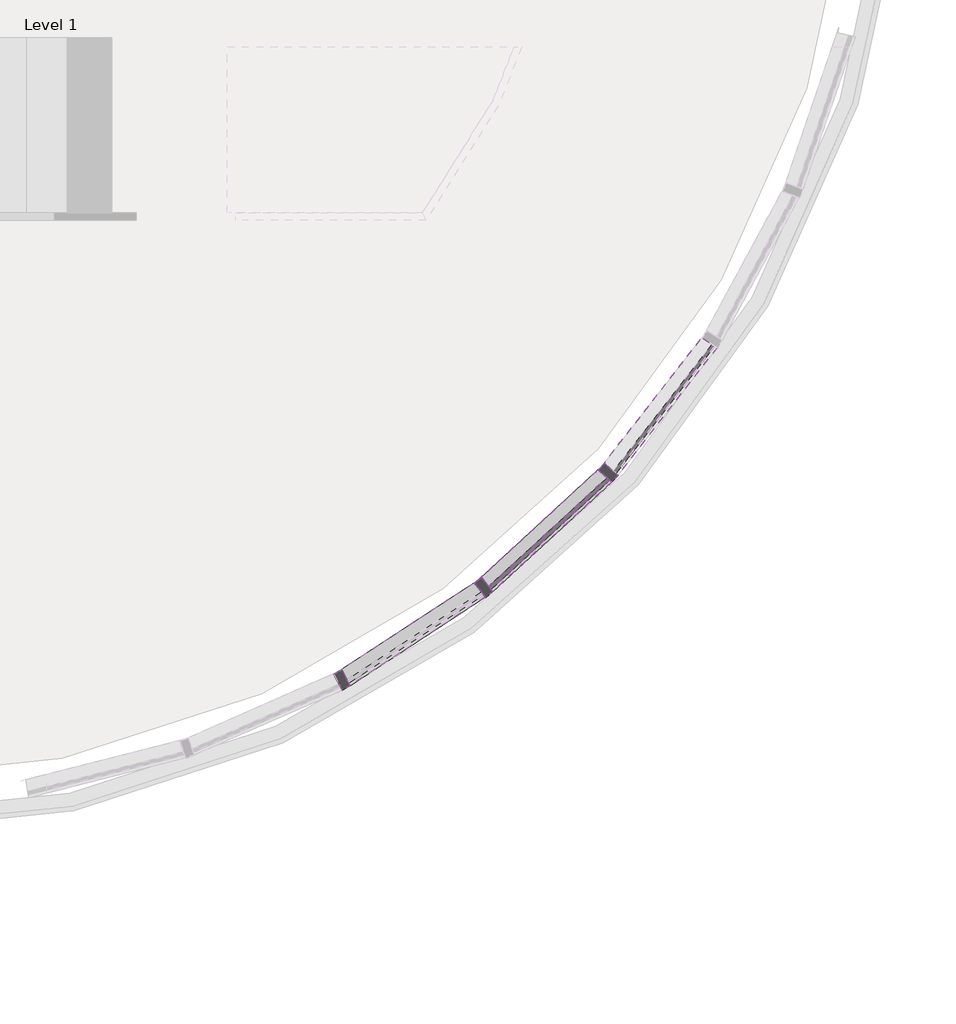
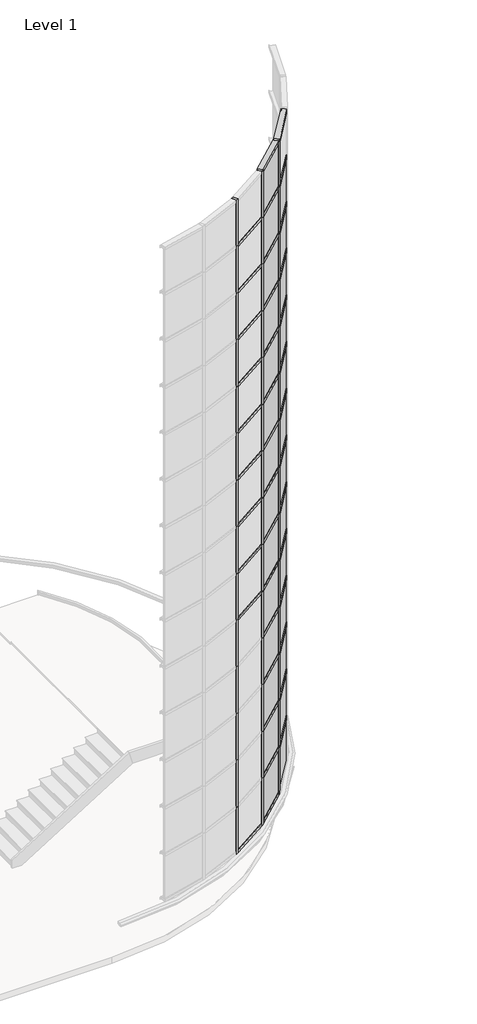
# One storey, part 6 of 20: 81 members, 27 plates.
"""IFC4 building model written with IfcOpenShell, lengths in millimetres."""

from ifc_helpers import new_model, si_unit, origin, place, context, project, spatial, transform, mapped, element, save
from components import member_68fe8548, member_f830fa99, member_935f61b8, system_panel_glazed_da602fa6, system_panel_glazed_77fd207e

model = new_model("IFC4")

# Units and contexts
model_context = context("Model", 3, world=origin())
ifc_project = project(units=[si_unit("LENGTHUNIT", "METRE", prefix="MILLI")], contexts=[model_context])

# Site, building, storey
site = spatial("IfcSite", under=ifc_project)
building = spatial("IfcBuilding", under=site)
storey = spatial("IfcBuildingStorey", under=building, Name="Level 1", Elevation=0.0)

# Members
placement = place(None, origin())
member_shape = member_68fe8548(model_context)
element("IfcMember", 1, ObjectType="Rectangular Mullion : 2.5\" x 5\" rectangular", at=placement, inside=storey, context=model_context, shape_type="MappedRepresentation", body=[
    mapped(member_shape, transform((23209.7590298, -7315.8596282, 17983.2), x_axis=(0.0, 0.0, 1.0), y_axis=(-0.7891405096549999, 0.6142127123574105, 0.0), z_axis=(-0.6142127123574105, -0.7891405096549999, 0.0))),
])
element("IfcMember", 2, ObjectType="Rectangular Mullion : 2.5\" x 5\" rectangular", at=placement, inside=storey, context=model_context, shape_type="MappedRepresentation", body=[
    mapped(member_shape, transform((22346.1500877, -8117.9707079, 17983.2), x_axis=(0.0, 0.0, 1.0), y_axis=(-0.6772815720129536, 0.7357239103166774, 0.0), z_axis=(-0.7357239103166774, -0.6772815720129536, 0.0))),
])
element("IfcMember", 3, ObjectType="Rectangular Mullion : 2.5\" x 5\" rectangular", at=placement, inside=storey, context=model_context, shape_type="MappedRepresentation", body=[
    mapped(member_shape, transform((23166.898542, -7362.4185293, 1092.2), x_axis=(0.0, 0.0, -1.0), y_axis=(-0.6772815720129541, 0.735723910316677, 0.0), z_axis=(0.7357239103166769, 0.677281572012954, 0.0))),
])
element("IfcMember", 4, ObjectType="Rectangular Mullion : 2.5\" x 5\" rectangular", at=placement, inside=storey, context=model_context, shape_type="MappedRepresentation", body=[
    mapped(member_shape, transform((22296.2108179, -8156.8400019, 1092.2), x_axis=(0.0, 0.0, -1.0), y_axis=(-0.5469481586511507, 0.8371664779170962, 0.0), z_axis=(0.8371664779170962, 0.5469481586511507, 0.0))),
])
member_2_shape = member_f830fa99(model_context)
element("IfcMember", 5, ObjectType="Rectangular Mullion : 2.5\" x 5\" rectangular", at=placement, inside=storey, context=model_context, shape_type="MappedRepresentation", body=[
    mapped(member_2_shape, transform((23209.7590298, -7315.8596282, 2298.7), x_axis=(0.0, 0.0, 1.0), y_axis=(-0.7891405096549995, 0.6142127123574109, 0.0), z_axis=(-0.6142127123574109, -0.7891405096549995, 0.0))),
])
element("IfcMember", 6, ObjectType="Rectangular Mullion : 2.5\" x 5\" rectangular", at=placement, inside=storey, context=model_context, shape_type="MappedRepresentation", body=[
    mapped(member_2_shape, transform((22346.1500877, -8117.9707079, 2298.7), x_axis=(0.0, 0.0, 1.0), y_axis=(-0.6772815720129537, 0.7357239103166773, 0.0), z_axis=(-0.7357239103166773, -0.6772815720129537, 0.0))),
])
element("IfcMember", 7, ObjectType="Rectangular Mullion : 2.5\" x 5\" rectangular", at=placement, inside=storey, context=model_context, shape_type="MappedRepresentation", body=[
    mapped(member_2_shape, transform((23209.7590298, -7315.8596282, 3505.2), x_axis=(0.0, 0.0, 1.0), y_axis=(-0.7891405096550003, 0.6142127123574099, 0.0), z_axis=(-0.6142127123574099, -0.7891405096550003, 0.0))),
])
element("IfcMember", 8, ObjectType="Rectangular Mullion : 2.5\" x 5\" rectangular", at=placement, inside=storey, context=model_context, shape_type="MappedRepresentation", body=[
    mapped(member_2_shape, transform((22346.1500877, -8117.9707079, 3505.2), x_axis=(0.0, 0.0, 1.0), y_axis=(-0.6772815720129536, 0.7357239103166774, 0.0), z_axis=(-0.7357239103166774, -0.6772815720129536, 0.0))),
])
element("IfcMember", 9, ObjectType="Rectangular Mullion : 2.5\" x 5\" rectangular", at=placement, inside=storey, context=model_context, shape_type="MappedRepresentation", body=[
    mapped(member_2_shape, transform((23209.7590298, -7315.8596282, 4711.7), x_axis=(0.0, 0.0, 1.0), y_axis=(-0.7891405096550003, 0.6142127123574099, 0.0), z_axis=(-0.6142127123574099, -0.7891405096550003, 0.0))),
])
element("IfcMember", 10, ObjectType="Rectangular Mullion : 2.5\" x 5\" rectangular", at=placement, inside=storey, context=model_context, shape_type="MappedRepresentation", body=[
    mapped(member_2_shape, transform((22346.1500877, -8117.9707079, 4711.7), x_axis=(0.0, 0.0, 1.0), y_axis=(-0.6772815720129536, 0.7357239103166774, 0.0), z_axis=(-0.7357239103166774, -0.6772815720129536, 0.0))),
])
element("IfcMember", 11, ObjectType="Rectangular Mullion : 2.5\" x 5\" rectangular", at=placement, inside=storey, context=model_context, shape_type="MappedRepresentation", body=[
    mapped(member_2_shape, transform((23209.7590298, -7315.8596282, 5918.2), x_axis=(0.0, 0.0, 1.0), y_axis=(-0.7891405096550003, 0.6142127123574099, 0.0), z_axis=(-0.6142127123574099, -0.7891405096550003, 0.0))),
])
element("IfcMember", 12, ObjectType="Rectangular Mullion : 2.5\" x 5\" rectangular", at=placement, inside=storey, context=model_context, shape_type="MappedRepresentation", body=[
    mapped(member_2_shape, transform((22346.1500877, -8117.9707079, 5918.2), x_axis=(0.0, 0.0, 1.0), y_axis=(-0.6772815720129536, 0.7357239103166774, 0.0), z_axis=(-0.7357239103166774, -0.6772815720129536, 0.0))),
])
element("IfcMember", 13, ObjectType="Rectangular Mullion : 2.5\" x 5\" rectangular", at=placement, inside=storey, context=model_context, shape_type="MappedRepresentation", body=[
    mapped(member_2_shape, transform((23209.7590298, -7315.8596282, 7124.7), x_axis=(0.0, 0.0, 1.0), y_axis=(-0.7891405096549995, 0.6142127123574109, 0.0), z_axis=(-0.6142127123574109, -0.7891405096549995, 0.0))),
])
element("IfcMember", 14, ObjectType="Rectangular Mullion : 2.5\" x 5\" rectangular", at=placement, inside=storey, context=model_context, shape_type="MappedRepresentation", body=[
    mapped(member_2_shape, transform((22346.1500877, -8117.9707079, 7124.7), x_axis=(0.0, 0.0, 1.0), y_axis=(-0.6772815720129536, 0.7357239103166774, 0.0), z_axis=(-0.7357239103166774, -0.6772815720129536, 0.0))),
])
element("IfcMember", 15, ObjectType="Rectangular Mullion : 2.5\" x 5\" rectangular", at=placement, inside=storey, context=model_context, shape_type="MappedRepresentation", body=[
    mapped(member_2_shape, transform((21362.2965016, -8766.9966782, 7124.7), x_axis=(0.0, 0.0, 1.0), y_axis=(-0.5469481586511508, 0.837166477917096, 0.0), z_axis=(-0.837166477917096, -0.5469481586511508, 0.0))),
])
element("IfcMember", 16, ObjectType="Rectangular Mullion : 2.5\" x 5\" rectangular", at=placement, inside=storey, context=model_context, shape_type="MappedRepresentation", body=[
    mapped(member_2_shape, transform((23209.7590298, -7315.8596282, 8331.2), x_axis=(0.0, 0.0, 1.0), y_axis=(-0.7891405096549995, 0.6142127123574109, 0.0), z_axis=(-0.6142127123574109, -0.7891405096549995, 0.0))),
])
element("IfcMember", 17, ObjectType="Rectangular Mullion : 2.5\" x 5\" rectangular", at=placement, inside=storey, context=model_context, shape_type="MappedRepresentation", body=[
    mapped(member_2_shape, transform((22346.1500877, -8117.9707079, 8331.2), x_axis=(0.0, 0.0, 1.0), y_axis=(-0.6772815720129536, 0.7357239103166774, 0.0), z_axis=(-0.7357239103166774, -0.6772815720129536, 0.0))),
])
element("IfcMember", 18, ObjectType="Rectangular Mullion : 2.5\" x 5\" rectangular", at=placement, inside=storey, context=model_context, shape_type="MappedRepresentation", body=[
    mapped(member_2_shape, transform((21362.2965016, -8766.9966782, 8331.2), x_axis=(0.0, 0.0, 1.0), y_axis=(-0.5469481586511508, 0.837166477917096, 0.0), z_axis=(-0.837166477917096, -0.5469481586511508, 0.0))),
])
element("IfcMember", 19, ObjectType="Rectangular Mullion : 2.5\" x 5\" rectangular", at=placement, inside=storey, context=model_context, shape_type="MappedRepresentation", body=[
    mapped(member_2_shape, transform((23209.7590298, -7315.8596282, 9537.7), x_axis=(0.0, 0.0, 1.0), y_axis=(-0.7891405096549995, 0.6142127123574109, 0.0), z_axis=(-0.6142127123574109, -0.7891405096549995, 0.0))),
])
element("IfcMember", 20, ObjectType="Rectangular Mullion : 2.5\" x 5\" rectangular", at=placement, inside=storey, context=model_context, shape_type="MappedRepresentation", body=[
    mapped(member_2_shape, transform((22346.1500877, -8117.9707079, 9537.7), x_axis=(0.0, 0.0, 1.0), y_axis=(-0.6772815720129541, 0.735723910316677, 0.0), z_axis=(-0.7357239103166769, -0.677281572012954, 0.0))),
])
element("IfcMember", 21, ObjectType="Rectangular Mullion : 2.5\" x 5\" rectangular", at=placement, inside=storey, context=model_context, shape_type="MappedRepresentation", body=[
    mapped(member_2_shape, transform((21362.2965016, -8766.9966782, 9537.7), x_axis=(0.0, 0.0, 1.0), y_axis=(-0.5469481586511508, 0.837166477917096, 0.0), z_axis=(-0.837166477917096, -0.5469481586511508, 0.0))),
])
element("IfcMember", 22, ObjectType="Rectangular Mullion : 2.5\" x 5\" rectangular", at=placement, inside=storey, context=model_context, shape_type="MappedRepresentation", body=[
    mapped(member_2_shape, transform((23209.7590298, -7315.8596282, 10744.2), x_axis=(0.0, 0.0, 1.0), y_axis=(-0.7891405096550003, 0.6142127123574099, 0.0), z_axis=(-0.6142127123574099, -0.7891405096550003, 0.0))),
])
element("IfcMember", 23, ObjectType="Rectangular Mullion : 2.5\" x 5\" rectangular", at=placement, inside=storey, context=model_context, shape_type="MappedRepresentation", body=[
    mapped(member_2_shape, transform((22346.1500877, -8117.9707079, 10744.2), x_axis=(0.0, 0.0, 1.0), y_axis=(-0.6772815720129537, 0.7357239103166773, 0.0), z_axis=(-0.7357239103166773, -0.6772815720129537, 0.0))),
])
element("IfcMember", 24, ObjectType="Rectangular Mullion : 2.5\" x 5\" rectangular", at=placement, inside=storey, context=model_context, shape_type="MappedRepresentation", body=[
    mapped(member_2_shape, transform((21362.2965016, -8766.9966782, 10744.2), x_axis=(0.0, 0.0, 1.0), y_axis=(-0.5469481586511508, 0.837166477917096, 0.0), z_axis=(-0.837166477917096, -0.5469481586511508, 0.0))),
])
element("IfcMember", 25, ObjectType="Rectangular Mullion : 2.5\" x 5\" rectangular", at=placement, inside=storey, context=model_context, shape_type="MappedRepresentation", body=[
    mapped(member_2_shape, transform((23209.7590298, -7315.8596282, 11950.7), x_axis=(0.0, 0.0, 1.0), y_axis=(-0.7891405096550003, 0.6142127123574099, 0.0), z_axis=(-0.6142127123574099, -0.7891405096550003, 0.0))),
])
element("IfcMember", 26, ObjectType="Rectangular Mullion : 2.5\" x 5\" rectangular", at=placement, inside=storey, context=model_context, shape_type="MappedRepresentation", body=[
    mapped(member_2_shape, transform((22346.1500877, -8117.9707079, 11950.7), x_axis=(0.0, 0.0, 1.0), y_axis=(-0.6772815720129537, 0.7357239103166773, 0.0), z_axis=(-0.7357239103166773, -0.6772815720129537, 0.0))),
])
element("IfcMember", 27, ObjectType="Rectangular Mullion : 2.5\" x 5\" rectangular", at=placement, inside=storey, context=model_context, shape_type="MappedRepresentation", body=[
    mapped(member_2_shape, transform((21362.2965016, -8766.9966782, 11950.7), x_axis=(0.0, 0.0, 1.0), y_axis=(-0.5469481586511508, 0.837166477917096, 0.0), z_axis=(-0.837166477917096, -0.5469481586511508, 0.0))),
])
element("IfcMember", 28, ObjectType="Rectangular Mullion : 2.5\" x 5\" rectangular", at=placement, inside=storey, context=model_context, shape_type="MappedRepresentation", body=[
    mapped(member_2_shape, transform((23209.7590298, -7315.8596282, 13157.2), x_axis=(0.0, 0.0, 1.0), y_axis=(-0.7891405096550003, 0.6142127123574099, 0.0), z_axis=(-0.6142127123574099, -0.7891405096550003, 0.0))),
])
element("IfcMember", 29, ObjectType="Rectangular Mullion : 2.5\" x 5\" rectangular", at=placement, inside=storey, context=model_context, shape_type="MappedRepresentation", body=[
    mapped(member_2_shape, transform((22346.1500877, -8117.9707079, 13157.2), x_axis=(0.0, 0.0, 1.0), y_axis=(-0.6772815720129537, 0.7357239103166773, 0.0), z_axis=(-0.7357239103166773, -0.6772815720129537, 0.0))),
])
element("IfcMember", 30, ObjectType="Rectangular Mullion : 2.5\" x 5\" rectangular", at=placement, inside=storey, context=model_context, shape_type="MappedRepresentation", body=[
    mapped(member_2_shape, transform((21362.2965016, -8766.9966782, 13157.2), x_axis=(0.0, 0.0, 1.0), y_axis=(-0.5469481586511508, 0.837166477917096, 0.0), z_axis=(-0.837166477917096, -0.5469481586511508, 0.0))),
])
element("IfcMember", 31, ObjectType="Rectangular Mullion : 2.5\" x 5\" rectangular", at=placement, inside=storey, context=model_context, shape_type="MappedRepresentation", body=[
    mapped(member_2_shape, transform((23209.7590298, -7315.8596282, 14363.7), x_axis=(0.0, 0.0, 1.0), y_axis=(-0.7891405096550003, 0.6142127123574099, 0.0), z_axis=(-0.6142127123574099, -0.7891405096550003, 0.0))),
])
element("IfcMember", 32, ObjectType="Rectangular Mullion : 2.5\" x 5\" rectangular", at=placement, inside=storey, context=model_context, shape_type="MappedRepresentation", body=[
    mapped(member_2_shape, transform((22346.1500877, -8117.9707079, 14363.7), x_axis=(0.0, 0.0, 1.0), y_axis=(-0.6772815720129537, 0.7357239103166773, 0.0), z_axis=(-0.7357239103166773, -0.6772815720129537, 0.0))),
])
element("IfcMember", 33, ObjectType="Rectangular Mullion : 2.5\" x 5\" rectangular", at=placement, inside=storey, context=model_context, shape_type="MappedRepresentation", body=[
    mapped(member_2_shape, transform((21362.2965016, -8766.9966782, 14363.7), x_axis=(0.0, 0.0, 1.0), y_axis=(-0.5469481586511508, 0.837166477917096, 0.0), z_axis=(-0.837166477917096, -0.5469481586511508, 0.0))),
])
element("IfcMember", 34, ObjectType="Rectangular Mullion : 2.5\" x 5\" rectangular", at=placement, inside=storey, context=model_context, shape_type="MappedRepresentation", body=[
    mapped(member_2_shape, transform((23209.7590298, -7315.8596282, 15570.2), x_axis=(0.0, 0.0, 1.0), y_axis=(-0.7891405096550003, 0.6142127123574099, 0.0), z_axis=(-0.6142127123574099, -0.7891405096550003, 0.0))),
])
element("IfcMember", 35, ObjectType="Rectangular Mullion : 2.5\" x 5\" rectangular", at=placement, inside=storey, context=model_context, shape_type="MappedRepresentation", body=[
    mapped(member_2_shape, transform((22346.1500877, -8117.9707079, 15570.2), x_axis=(0.0, 0.0, 1.0), y_axis=(-0.6772815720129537, 0.7357239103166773, 0.0), z_axis=(-0.7357239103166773, -0.6772815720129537, 0.0))),
])
element("IfcMember", 36, ObjectType="Rectangular Mullion : 2.5\" x 5\" rectangular", at=placement, inside=storey, context=model_context, shape_type="MappedRepresentation", body=[
    mapped(member_2_shape, transform((21362.2965016, -8766.9966782, 15570.2), x_axis=(0.0, 0.0, 1.0), y_axis=(-0.5469481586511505, 0.8371664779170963, 0.0), z_axis=(-0.8371664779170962, -0.5469481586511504, 0.0))),
])
element("IfcMember", 37, ObjectType="Rectangular Mullion : 2.5\" x 5\" rectangular", at=placement, inside=storey, context=model_context, shape_type="MappedRepresentation", body=[
    mapped(member_2_shape, transform((23209.7590298, -7315.8596282, 16776.7), x_axis=(0.0, 0.0, 1.0), y_axis=(-0.7891405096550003, 0.6142127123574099, 0.0), z_axis=(-0.6142127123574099, -0.7891405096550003, 0.0))),
])
element("IfcMember", 38, ObjectType="Rectangular Mullion : 2.5\" x 5\" rectangular", at=placement, inside=storey, context=model_context, shape_type="MappedRepresentation", body=[
    mapped(member_2_shape, transform((22346.1500877, -8117.9707079, 16776.7), x_axis=(0.0, 0.0, 1.0), y_axis=(-0.6772815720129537, 0.7357239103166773, 0.0), z_axis=(-0.7357239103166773, -0.6772815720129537, 0.0))),
])
element("IfcMember", 39, ObjectType="Rectangular Mullion : 2.5\" x 5\" rectangular", at=placement, inside=storey, context=model_context, shape_type="MappedRepresentation", body=[
    mapped(member_2_shape, transform((21362.2965016, -8766.9966782, 16776.7), x_axis=(0.0, 0.0, 1.0), y_axis=(-0.5469481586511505, 0.8371664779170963, 0.0), z_axis=(-0.8371664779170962, -0.5469481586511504, 0.0))),
])
member_3_shape = member_935f61b8(model_context)
element("IfcMember", 40, ObjectType="Rectangular Mullion : 2.5\" x 5\" rectangular", at=placement, inside=storey, context=model_context, shape_type="MappedRepresentation", body=[
    mapped(member_3_shape, transform((23190.2577761, -7340.9148394, 1092.2), x_axis=(-0.6772815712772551, -0.7357239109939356, 0.0), y_axis=(-0.7357239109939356, 0.6772815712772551, 0.0), z_axis=(0.0, 0.0, -1.0))),
])
element("IfcMember", 41, ObjectType="Rectangular Mullion : 2.5\" x 5\" rectangular", at=placement, inside=storey, context=model_context, shape_type="MappedRepresentation", body=[
    mapped(member_3_shape, transform((22322.7908536, -8139.4743979, 1092.2), x_axis=(-0.7891405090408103, -0.6142127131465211, 0.0), y_axis=(-0.6142127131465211, 0.7891405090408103, 0.0), z_axis=(0.0, 0.0, -1.0))),
])
element("IfcMember", 42, ObjectType="Rectangular Mullion : 2.5\" x 5\" rectangular", at=placement, inside=storey, context=model_context, shape_type="MappedRepresentation", body=[
    mapped(member_3_shape, transform((21335.7164659, -8784.3622822, 1092.2), x_axis=(-0.8794737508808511, -0.47594739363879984, 0.0), y_axis=(-0.47594739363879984, 0.8794737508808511, 0.0), z_axis=(0.0, 0.0, -1.0))),
])
element("IfcMember", 43, ObjectType="Rectangular Mullion : 2.5\" x 5\" rectangular", at=placement, inside=storey, context=model_context, shape_type="MappedRepresentation", body=[
    mapped(member_3_shape, transform((23190.2577761, -7340.9148394, 2298.7), x_axis=(-0.6772815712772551, -0.7357239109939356, 0.0), y_axis=(-0.7357239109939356, 0.6772815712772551, 0.0), z_axis=(0.0, 0.0, -1.0))),
])
element("IfcMember", 44, ObjectType="Rectangular Mullion : 2.5\" x 5\" rectangular", at=placement, inside=storey, context=model_context, shape_type="MappedRepresentation", body=[
    mapped(member_3_shape, transform((22322.7908536, -8139.4743979, 2298.7), x_axis=(-0.7891405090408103, -0.6142127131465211, 0.0), y_axis=(-0.6142127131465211, 0.7891405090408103, 0.0), z_axis=(0.0, 0.0, -1.0))),
])
element("IfcMember", 45, ObjectType="Rectangular Mullion : 2.5\" x 5\" rectangular", at=placement, inside=storey, context=model_context, shape_type="MappedRepresentation", body=[
    mapped(member_3_shape, transform((21335.7164659, -8784.3622822, 2298.7), x_axis=(-0.8794737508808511, -0.47594739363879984, 0.0), y_axis=(-0.47594739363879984, 0.8794737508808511, 0.0), z_axis=(0.0, 0.0, -1.0))),
])
element("IfcMember", 46, ObjectType="Rectangular Mullion : 2.5\" x 5\" rectangular", at=placement, inside=storey, context=model_context, shape_type="MappedRepresentation", body=[
    mapped(member_3_shape, transform((23190.2577761, -7340.9148394, 3505.2), x_axis=(-0.6772815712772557, -0.735723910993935, 0.0), y_axis=(-0.735723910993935, 0.6772815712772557, 0.0), z_axis=(0.0, 0.0, -1.0))),
])
element("IfcMember", 47, ObjectType="Rectangular Mullion : 2.5\" x 5\" rectangular", at=placement, inside=storey, context=model_context, shape_type="MappedRepresentation", body=[
    mapped(member_3_shape, transform((22322.7908536, -8139.4743979, 3505.2), x_axis=(-0.7891405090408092, -0.6142127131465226, 0.0), y_axis=(-0.6142127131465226, 0.7891405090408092, 0.0), z_axis=(0.0, 0.0, -1.0))),
])
element("IfcMember", 48, ObjectType="Rectangular Mullion : 2.5\" x 5\" rectangular", at=placement, inside=storey, context=model_context, shape_type="MappedRepresentation", body=[
    mapped(member_3_shape, transform((21335.7164659, -8784.3622822, 3505.2), x_axis=(-0.8794737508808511, -0.47594739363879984, 0.0), y_axis=(-0.47594739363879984, 0.8794737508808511, 0.0), z_axis=(0.0, 0.0, -1.0))),
])
element("IfcMember", 49, ObjectType="Rectangular Mullion : 2.5\" x 5\" rectangular", at=placement, inside=storey, context=model_context, shape_type="MappedRepresentation", body=[
    mapped(member_3_shape, transform((23190.2577761, -7340.9148394, 4711.7), x_axis=(-0.6772815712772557, -0.735723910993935, 0.0), y_axis=(-0.735723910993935, 0.6772815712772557, 0.0), z_axis=(0.0, 0.0, -1.0))),
])
element("IfcMember", 50, ObjectType="Rectangular Mullion : 2.5\" x 5\" rectangular", at=placement, inside=storey, context=model_context, shape_type="MappedRepresentation", body=[
    mapped(member_3_shape, transform((22322.7908536, -8139.4743979, 4711.7), x_axis=(-0.7891405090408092, -0.6142127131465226, 0.0), y_axis=(-0.6142127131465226, 0.7891405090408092, 0.0), z_axis=(0.0, 0.0, -1.0))),
])
element("IfcMember", 51, ObjectType="Rectangular Mullion : 2.5\" x 5\" rectangular", at=placement, inside=storey, context=model_context, shape_type="MappedRepresentation", body=[
    mapped(member_3_shape, transform((21335.7164659, -8784.3622822, 4711.7), x_axis=(-0.8794737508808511, -0.47594739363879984, 0.0), y_axis=(-0.47594739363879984, 0.8794737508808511, 0.0), z_axis=(0.0, 0.0, -1.0))),
])
element("IfcMember", 52, ObjectType="Rectangular Mullion : 2.5\" x 5\" rectangular", at=placement, inside=storey, context=model_context, shape_type="MappedRepresentation", body=[
    mapped(member_3_shape, transform((23190.2577761, -7340.9148394, 5918.2), x_axis=(-0.6772815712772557, -0.735723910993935, 0.0), y_axis=(-0.735723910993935, 0.6772815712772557, 0.0), z_axis=(0.0, 0.0, -1.0))),
])
element("IfcMember", 53, ObjectType="Rectangular Mullion : 2.5\" x 5\" rectangular", at=placement, inside=storey, context=model_context, shape_type="MappedRepresentation", body=[
    mapped(member_3_shape, transform((22322.7908536, -8139.4743979, 5918.2), x_axis=(-0.7891405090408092, -0.6142127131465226, 0.0), y_axis=(-0.6142127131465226, 0.7891405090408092, 0.0), z_axis=(0.0, 0.0, -1.0))),
])
element("IfcMember", 54, ObjectType="Rectangular Mullion : 2.5\" x 5\" rectangular", at=placement, inside=storey, context=model_context, shape_type="MappedRepresentation", body=[
    mapped(member_3_shape, transform((21335.7164659, -8784.3622822, 5918.2), x_axis=(-0.8794737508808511, -0.47594739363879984, 0.0), y_axis=(-0.47594739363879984, 0.8794737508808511, 0.0), z_axis=(0.0, 0.0, -1.0))),
])
element("IfcMember", 55, ObjectType="Rectangular Mullion : 2.5\" x 5\" rectangular", at=placement, inside=storey, context=model_context, shape_type="MappedRepresentation", body=[
    mapped(member_3_shape, transform((23190.2577761, -7340.9148394, 7124.7), x_axis=(-0.6772815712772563, -0.7357239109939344, 0.0), y_axis=(-0.7357239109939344, 0.6772815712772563, 0.0), z_axis=(0.0, 0.0, -1.0))),
])
element("IfcMember", 56, ObjectType="Rectangular Mullion : 2.5\" x 5\" rectangular", at=placement, inside=storey, context=model_context, shape_type="MappedRepresentation", body=[
    mapped(member_3_shape, transform((22322.7908536, -8139.4743979, 7124.7), x_axis=(-0.7891405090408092, -0.6142127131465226, 0.0), y_axis=(-0.6142127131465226, 0.7891405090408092, 0.0), z_axis=(0.0, 0.0, -1.0))),
])
element("IfcMember", 57, ObjectType="Rectangular Mullion : 2.5\" x 5\" rectangular", at=placement, inside=storey, context=model_context, shape_type="MappedRepresentation", body=[
    mapped(member_3_shape, transform((21335.7164659, -8784.3622822, 7124.7), x_axis=(-0.8794737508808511, -0.47594739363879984, 0.0), y_axis=(-0.47594739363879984, 0.8794737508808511, 0.0), z_axis=(0.0, 0.0, -1.0))),
])
element("IfcMember", 58, ObjectType="Rectangular Mullion : 2.5\" x 5\" rectangular", at=placement, inside=storey, context=model_context, shape_type="MappedRepresentation", body=[
    mapped(member_3_shape, transform((23190.2577761, -7340.9148394, 8331.2), x_axis=(-0.6772815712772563, -0.7357239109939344, 0.0), y_axis=(-0.7357239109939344, 0.6772815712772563, 0.0), z_axis=(0.0, 0.0, -1.0))),
])
element("IfcMember", 59, ObjectType="Rectangular Mullion : 2.5\" x 5\" rectangular", at=placement, inside=storey, context=model_context, shape_type="MappedRepresentation", body=[
    mapped(member_3_shape, transform((22322.7908536, -8139.4743979, 8331.2), x_axis=(-0.7891405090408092, -0.6142127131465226, 0.0), y_axis=(-0.6142127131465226, 0.7891405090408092, 0.0), z_axis=(0.0, 0.0, -1.0))),
])
element("IfcMember", 60, ObjectType="Rectangular Mullion : 2.5\" x 5\" rectangular", at=placement, inside=storey, context=model_context, shape_type="MappedRepresentation", body=[
    mapped(member_3_shape, transform((21335.7164659, -8784.3622822, 8331.2), x_axis=(-0.8794737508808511, -0.47594739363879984, 0.0), y_axis=(-0.47594739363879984, 0.8794737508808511, 0.0), z_axis=(0.0, 0.0, -1.0))),
])
element("IfcMember", 61, ObjectType="Rectangular Mullion : 2.5\" x 5\" rectangular", at=placement, inside=storey, context=model_context, shape_type="MappedRepresentation", body=[
    mapped(member_3_shape, transform((23190.2577761, -7340.9148394, 9537.7), x_axis=(-0.6772815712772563, -0.7357239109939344, 0.0), y_axis=(-0.7357239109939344, 0.6772815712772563, 0.0), z_axis=(0.0, 0.0, -1.0))),
])
element("IfcMember", 62, ObjectType="Rectangular Mullion : 2.5\" x 5\" rectangular", at=placement, inside=storey, context=model_context, shape_type="MappedRepresentation", body=[
    mapped(member_3_shape, transform((22322.7908536, -8139.4743979, 9537.7), x_axis=(-0.7891405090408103, -0.6142127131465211, 0.0), y_axis=(-0.6142127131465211, 0.7891405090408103, 0.0), z_axis=(0.0, 0.0, -1.0))),
])
element("IfcMember", 63, ObjectType="Rectangular Mullion : 2.5\" x 5\" rectangular", at=placement, inside=storey, context=model_context, shape_type="MappedRepresentation", body=[
    mapped(member_3_shape, transform((21335.7164659, -8784.3622822, 9537.7), x_axis=(-0.8794737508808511, -0.47594739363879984, 0.0), y_axis=(-0.47594739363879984, 0.8794737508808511, 0.0), z_axis=(0.0, 0.0, -1.0))),
])
element("IfcMember", 64, ObjectType="Rectangular Mullion : 2.5\" x 5\" rectangular", at=placement, inside=storey, context=model_context, shape_type="MappedRepresentation", body=[
    mapped(member_3_shape, transform((23190.2577761, -7340.9148394, 10744.2), x_axis=(-0.6772815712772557, -0.735723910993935, 0.0), y_axis=(-0.735723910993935, 0.6772815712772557, 0.0), z_axis=(0.0, 0.0, -1.0))),
])
element("IfcMember", 65, ObjectType="Rectangular Mullion : 2.5\" x 5\" rectangular", at=placement, inside=storey, context=model_context, shape_type="MappedRepresentation", body=[
    mapped(member_3_shape, transform((22322.7908536, -8139.4743979, 10744.2), x_axis=(-0.7891405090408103, -0.6142127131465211, 0.0), y_axis=(-0.6142127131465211, 0.7891405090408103, 0.0), z_axis=(0.0, 0.0, -1.0))),
])
element("IfcMember", 66, ObjectType="Rectangular Mullion : 2.5\" x 5\" rectangular", at=placement, inside=storey, context=model_context, shape_type="MappedRepresentation", body=[
    mapped(member_3_shape, transform((21335.7164659, -8784.3622822, 10744.2), x_axis=(-0.8794737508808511, -0.47594739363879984, 0.0), y_axis=(-0.47594739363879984, 0.8794737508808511, 0.0), z_axis=(0.0, 0.0, -1.0))),
])
element("IfcMember", 67, ObjectType="Rectangular Mullion : 2.5\" x 5\" rectangular", at=placement, inside=storey, context=model_context, shape_type="MappedRepresentation", body=[
    mapped(member_3_shape, transform((23190.2577761, -7340.9148394, 11950.7), x_axis=(-0.6772815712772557, -0.735723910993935, 0.0), y_axis=(-0.735723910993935, 0.6772815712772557, 0.0), z_axis=(0.0, 0.0, -1.0))),
])
element("IfcMember", 68, ObjectType="Rectangular Mullion : 2.5\" x 5\" rectangular", at=placement, inside=storey, context=model_context, shape_type="MappedRepresentation", body=[
    mapped(member_3_shape, transform((22322.7908536, -8139.4743979, 11950.7), x_axis=(-0.7891405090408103, -0.6142127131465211, 0.0), y_axis=(-0.6142127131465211, 0.7891405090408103, 0.0), z_axis=(0.0, 0.0, -1.0))),
])
element("IfcMember", 69, ObjectType="Rectangular Mullion : 2.5\" x 5\" rectangular", at=placement, inside=storey, context=model_context, shape_type="MappedRepresentation", body=[
    mapped(member_3_shape, transform((21335.7164659, -8784.3622822, 11950.7), x_axis=(-0.8794737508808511, -0.47594739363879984, 0.0), y_axis=(-0.47594739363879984, 0.8794737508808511, 0.0), z_axis=(0.0, 0.0, -1.0))),
])
element("IfcMember", 70, ObjectType="Rectangular Mullion : 2.5\" x 5\" rectangular", at=placement, inside=storey, context=model_context, shape_type="MappedRepresentation", body=[
    mapped(member_3_shape, transform((23190.2577761, -7340.9148394, 13157.2), x_axis=(-0.6772815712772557, -0.735723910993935, 0.0), y_axis=(-0.735723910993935, 0.6772815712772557, 0.0), z_axis=(0.0, 0.0, -1.0))),
])
element("IfcMember", 71, ObjectType="Rectangular Mullion : 2.5\" x 5\" rectangular", at=placement, inside=storey, context=model_context, shape_type="MappedRepresentation", body=[
    mapped(member_3_shape, transform((22322.7908536, -8139.4743979, 13157.2), x_axis=(-0.7891405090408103, -0.6142127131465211, 0.0), y_axis=(-0.6142127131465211, 0.7891405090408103, 0.0), z_axis=(0.0, 0.0, -1.0))),
])
element("IfcMember", 72, ObjectType="Rectangular Mullion : 2.5\" x 5\" rectangular", at=placement, inside=storey, context=model_context, shape_type="MappedRepresentation", body=[
    mapped(member_3_shape, transform((21335.7164659, -8784.3622822, 13157.2), x_axis=(-0.8794737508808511, -0.47594739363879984, 0.0), y_axis=(-0.47594739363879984, 0.8794737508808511, 0.0), z_axis=(0.0, 0.0, -1.0))),
])
element("IfcMember", 73, ObjectType="Rectangular Mullion : 2.5\" x 5\" rectangular", at=placement, inside=storey, context=model_context, shape_type="MappedRepresentation", body=[
    mapped(member_3_shape, transform((23190.2577761, -7340.9148394, 14363.7), x_axis=(-0.6772815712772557, -0.735723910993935, 0.0), y_axis=(-0.735723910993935, 0.6772815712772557, 0.0), z_axis=(0.0, 0.0, -1.0))),
])
element("IfcMember", 74, ObjectType="Rectangular Mullion : 2.5\" x 5\" rectangular", at=placement, inside=storey, context=model_context, shape_type="MappedRepresentation", body=[
    mapped(member_3_shape, transform((22322.7908536, -8139.4743979, 14363.7), x_axis=(-0.7891405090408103, -0.6142127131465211, 0.0), y_axis=(-0.6142127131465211, 0.7891405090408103, 0.0), z_axis=(0.0, 0.0, -1.0))),
])
element("IfcMember", 75, ObjectType="Rectangular Mullion : 2.5\" x 5\" rectangular", at=placement, inside=storey, context=model_context, shape_type="MappedRepresentation", body=[
    mapped(member_3_shape, transform((21335.7164659, -8784.3622822, 14363.7), x_axis=(-0.8794737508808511, -0.47594739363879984, 0.0), y_axis=(-0.47594739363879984, 0.8794737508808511, 0.0), z_axis=(0.0, 0.0, -1.0))),
])
element("IfcMember", 76, ObjectType="Rectangular Mullion : 2.5\" x 5\" rectangular", at=placement, inside=storey, context=model_context, shape_type="MappedRepresentation", body=[
    mapped(member_3_shape, transform((23190.2577761, -7340.9148394, 15570.2), x_axis=(-0.6772815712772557, -0.735723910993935, 0.0), y_axis=(-0.735723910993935, 0.6772815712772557, 0.0), z_axis=(0.0, 0.0, -1.0))),
])
element("IfcMember", 77, ObjectType="Rectangular Mullion : 2.5\" x 5\" rectangular", at=placement, inside=storey, context=model_context, shape_type="MappedRepresentation", body=[
    mapped(member_3_shape, transform((22322.7908536, -8139.4743979, 15570.2), x_axis=(-0.7891405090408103, -0.6142127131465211, 0.0), y_axis=(-0.6142127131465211, 0.7891405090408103, 0.0), z_axis=(0.0, 0.0, -1.0))),
])
element("IfcMember", 78, ObjectType="Rectangular Mullion : 2.5\" x 5\" rectangular", at=placement, inside=storey, context=model_context, shape_type="MappedRepresentation", body=[
    mapped(member_3_shape, transform((21335.7164659, -8784.3622822, 15570.2), x_axis=(-0.8794737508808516, -0.47594739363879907, 0.0), y_axis=(-0.47594739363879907, 0.8794737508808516, 0.0), z_axis=(0.0, 0.0, -1.0))),
])
element("IfcMember", 79, ObjectType="Rectangular Mullion : 2.5\" x 5\" rectangular", at=placement, inside=storey, context=model_context, shape_type="MappedRepresentation", body=[
    mapped(member_3_shape, transform((23190.2577761, -7340.9148394, 16776.7), x_axis=(-0.6772815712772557, -0.735723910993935, 0.0), y_axis=(-0.735723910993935, 0.6772815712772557, 0.0), z_axis=(0.0, 0.0, -1.0))),
])
element("IfcMember", 80, ObjectType="Rectangular Mullion : 2.5\" x 5\" rectangular", at=placement, inside=storey, context=model_context, shape_type="MappedRepresentation", body=[
    mapped(member_3_shape, transform((22322.7908536, -8139.4743979, 16776.7), x_axis=(-0.7891405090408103, -0.6142127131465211, 0.0), y_axis=(-0.6142127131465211, 0.7891405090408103, 0.0), z_axis=(0.0, 0.0, -1.0))),
])
element("IfcMember", 81, ObjectType="Rectangular Mullion : 2.5\" x 5\" rectangular", at=placement, inside=storey, context=model_context, shape_type="MappedRepresentation", body=[
    mapped(member_3_shape, transform((21335.7164659, -8784.3622822, 16776.7), x_axis=(-0.8794737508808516, -0.47594739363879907, 0.0), y_axis=(-0.47594739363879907, 0.8794737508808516, 0.0), z_axis=(0.0, 0.0, -1.0))),
])

# Plates
system_panel_glazed_shape = system_panel_glazed_da602fa6(model_context)
element("IfcPlate", 82, ObjectType="System Panel : Glazed", at=placement, inside=storey, context=model_context, shape_type="MappedRepresentation", body=[
    mapped(system_panel_glazed_shape, transform((23552.3563867, -6875.6905346, 1155.7), x_axis=(-0.6142127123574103, -0.789140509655, 0.0), y_axis=(0.789140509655, -0.6142127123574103, 0.0), z_axis=(0.0, 0.0, 1.0))),
])
element("IfcPlate", 83, ObjectType="System Panel : Glazed", at=placement, inside=storey, context=model_context, shape_type="MappedRepresentation", body=[
    mapped(system_panel_glazed_shape, transform((22756.5243149, -7740.1946186, 1155.7), x_axis=(-0.735723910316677, -0.6772815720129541, 0.0), y_axis=(0.6772815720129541, -0.735723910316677, 0.0), z_axis=(0.0, 0.0, 1.0))),
])
element("IfcPlate", 84, ObjectType="System Panel : Glazed", at=placement, inside=storey, context=model_context, shape_type="MappedRepresentation", body=[
    mapped(system_panel_glazed_shape, transform((22756.5243149, -7740.1946186, 16808.45), x_axis=(-0.735723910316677, -0.6772815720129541, 0.0), y_axis=(0.6772815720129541, -0.735723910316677, 0.0), z_axis=(0.0, 0.0, 1.0))),
])
system_panel_glazed_2_shape = system_panel_glazed_77fd207e(model_context)
element("IfcPlate", 85, ObjectType="System Panel : Glazed", at=placement, inside=storey, context=model_context, shape_type="MappedRepresentation", body=[
    mapped(system_panel_glazed_2_shape, transform((23552.3563867, -6875.6905346, 2330.45), x_axis=(-0.6142127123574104, -0.7891405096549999, 0.0), y_axis=(0.7891405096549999, -0.6142127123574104, 0.0), z_axis=(0.0, 0.0, 1.0))),
])
element("IfcPlate", 86, ObjectType="System Panel : Glazed", at=placement, inside=storey, context=model_context, shape_type="MappedRepresentation", body=[
    mapped(system_panel_glazed_2_shape, transform((22756.5243149, -7740.1946186, 2330.45), x_axis=(-0.735723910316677, -0.6772815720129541, 0.0), y_axis=(0.6772815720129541, -0.735723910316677, 0.0), z_axis=(0.0, 0.0, 1.0))),
])
element("IfcPlate", 87, ObjectType="System Panel : Glazed", at=placement, inside=storey, context=model_context, shape_type="MappedRepresentation", body=[
    mapped(system_panel_glazed_2_shape, transform((23552.3563867, -6875.6905346, 3536.95), x_axis=(-0.6142127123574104, -0.7891405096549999, 0.0), y_axis=(0.7891405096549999, -0.6142127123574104, 0.0), z_axis=(0.0, 0.0, 1.0))),
])
element("IfcPlate", 88, ObjectType="System Panel : Glazed", at=placement, inside=storey, context=model_context, shape_type="MappedRepresentation", body=[
    mapped(system_panel_glazed_2_shape, transform((22756.5243149, -7740.1946186, 3536.95), x_axis=(-0.735723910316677, -0.6772815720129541, 0.0), y_axis=(0.6772815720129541, -0.735723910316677, 0.0), z_axis=(0.0, 0.0, 1.0))),
])
element("IfcPlate", 89, ObjectType="System Panel : Glazed", at=placement, inside=storey, context=model_context, shape_type="MappedRepresentation", body=[
    mapped(system_panel_glazed_2_shape, transform((23552.3563867, -6875.6905346, 4743.45), x_axis=(-0.6142127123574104, -0.7891405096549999, 0.0), y_axis=(0.7891405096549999, -0.6142127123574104, 0.0), z_axis=(0.0, 0.0, 1.0))),
])
element("IfcPlate", 90, ObjectType="System Panel : Glazed", at=placement, inside=storey, context=model_context, shape_type="MappedRepresentation", body=[
    mapped(system_panel_glazed_2_shape, transform((22756.5243149, -7740.1946186, 4743.45), x_axis=(-0.735723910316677, -0.6772815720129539, 0.0), y_axis=(0.6772815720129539, -0.735723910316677, 0.0), z_axis=(0.0, 0.0, 1.0))),
])
element("IfcPlate", 91, ObjectType="System Panel : Glazed", at=placement, inside=storey, context=model_context, shape_type="MappedRepresentation", body=[
    mapped(system_panel_glazed_2_shape, transform((23552.3563867, -6875.6905346, 5949.95), x_axis=(-0.6142127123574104, -0.7891405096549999, 0.0), y_axis=(0.7891405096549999, -0.6142127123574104, 0.0), z_axis=(0.0, 0.0, 1.0))),
])
element("IfcPlate", 92, ObjectType="System Panel : Glazed", at=placement, inside=storey, context=model_context, shape_type="MappedRepresentation", body=[
    mapped(system_panel_glazed_2_shape, transform((22756.5243149, -7740.1946186, 5949.95), x_axis=(-0.735723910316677, -0.6772815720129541, 0.0), y_axis=(0.6772815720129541, -0.735723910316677, 0.0), z_axis=(0.0, 0.0, 1.0))),
])
element("IfcPlate", 93, ObjectType="System Panel : Glazed", at=placement, inside=storey, context=model_context, shape_type="MappedRepresentation", body=[
    mapped(system_panel_glazed_2_shape, transform((23552.3563867, -6875.6905346, 7156.45), x_axis=(-0.6142127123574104, -0.7891405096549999, 0.0), y_axis=(0.7891405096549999, -0.6142127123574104, 0.0), z_axis=(0.0, 0.0, 1.0))),
])
element("IfcPlate", 94, ObjectType="System Panel : Glazed", at=placement, inside=storey, context=model_context, shape_type="MappedRepresentation", body=[
    mapped(system_panel_glazed_2_shape, transform((22756.5243149, -7740.1946186, 7156.45), x_axis=(-0.735723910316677, -0.6772815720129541, 0.0), y_axis=(0.6772815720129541, -0.735723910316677, 0.0), z_axis=(0.0, 0.0, 1.0))),
])
element("IfcPlate", 95, ObjectType="System Panel : Glazed", at=placement, inside=storey, context=model_context, shape_type="MappedRepresentation", body=[
    mapped(system_panel_glazed_2_shape, transform((23552.3563867, -6875.6905346, 8362.95), x_axis=(-0.6142127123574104, -0.7891405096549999, 0.0), y_axis=(0.7891405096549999, -0.6142127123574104, 0.0), z_axis=(0.0, 0.0, 1.0))),
])
element("IfcPlate", 96, ObjectType="System Panel : Glazed", at=placement, inside=storey, context=model_context, shape_type="MappedRepresentation", body=[
    mapped(system_panel_glazed_2_shape, transform((22756.5243149, -7740.1946186, 8362.95), x_axis=(-0.735723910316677, -0.6772815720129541, 0.0), y_axis=(0.6772815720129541, -0.735723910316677, 0.0), z_axis=(0.0, 0.0, 1.0))),
])
element("IfcPlate", 97, ObjectType="System Panel : Glazed", at=placement, inside=storey, context=model_context, shape_type="MappedRepresentation", body=[
    mapped(system_panel_glazed_2_shape, transform((23552.3563867, -6875.6905346, 9569.45), x_axis=(-0.6142127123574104, -0.7891405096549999, 0.0), y_axis=(0.7891405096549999, -0.6142127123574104, 0.0), z_axis=(0.0, 0.0, 1.0))),
])
element("IfcPlate", 98, ObjectType="System Panel : Glazed", at=placement, inside=storey, context=model_context, shape_type="MappedRepresentation", body=[
    mapped(system_panel_glazed_2_shape, transform((22756.5243149, -7740.1946186, 9569.45), x_axis=(-0.735723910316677, -0.6772815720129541, 0.0), y_axis=(0.6772815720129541, -0.735723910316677, 0.0), z_axis=(0.0, 0.0, 1.0))),
])
element("IfcPlate", 99, ObjectType="System Panel : Glazed", at=placement, inside=storey, context=model_context, shape_type="MappedRepresentation", body=[
    mapped(system_panel_glazed_2_shape, transform((23552.3563867, -6875.6905346, 10775.95), x_axis=(-0.6142127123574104, -0.7891405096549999, 0.0), y_axis=(0.7891405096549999, -0.6142127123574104, 0.0), z_axis=(0.0, 0.0, 1.0))),
])
element("IfcPlate", 100, ObjectType="System Panel : Glazed", at=placement, inside=storey, context=model_context, shape_type="MappedRepresentation", body=[
    mapped(system_panel_glazed_2_shape, transform((22756.5243149, -7740.1946186, 10775.95), x_axis=(-0.735723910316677, -0.6772815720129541, 0.0), y_axis=(0.6772815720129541, -0.735723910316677, 0.0), z_axis=(0.0, 0.0, 1.0))),
])
element("IfcPlate", 101, ObjectType="System Panel : Glazed", at=placement, inside=storey, context=model_context, shape_type="MappedRepresentation", body=[
    mapped(system_panel_glazed_2_shape, transform((23552.3563867, -6875.6905346, 11982.45), x_axis=(-0.6142127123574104, -0.7891405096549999, 0.0), y_axis=(0.7891405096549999, -0.6142127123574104, 0.0), z_axis=(0.0, 0.0, 1.0))),
])
element("IfcPlate", 102, ObjectType="System Panel : Glazed", at=placement, inside=storey, context=model_context, shape_type="MappedRepresentation", body=[
    mapped(system_panel_glazed_2_shape, transform((22756.5243149, -7740.1946186, 11982.45), x_axis=(-0.735723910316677, -0.6772815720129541, 0.0), y_axis=(0.6772815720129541, -0.735723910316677, 0.0), z_axis=(0.0, 0.0, 1.0))),
])
element("IfcPlate", 103, ObjectType="System Panel : Glazed", at=placement, inside=storey, context=model_context, shape_type="MappedRepresentation", body=[
    mapped(system_panel_glazed_2_shape, transform((23552.3563867, -6875.6905346, 13188.95), x_axis=(-0.6142127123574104, -0.7891405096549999, 0.0), y_axis=(0.7891405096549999, -0.6142127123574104, 0.0), z_axis=(0.0, 0.0, 1.0))),
])
element("IfcPlate", 104, ObjectType="System Panel : Glazed", at=placement, inside=storey, context=model_context, shape_type="MappedRepresentation", body=[
    mapped(system_panel_glazed_2_shape, transform((22756.5243149, -7740.1946186, 13188.95), x_axis=(-0.735723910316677, -0.6772815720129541, 0.0), y_axis=(0.6772815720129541, -0.735723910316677, 0.0), z_axis=(0.0, 0.0, 1.0))),
])
element("IfcPlate", 105, ObjectType="System Panel : Glazed", at=placement, inside=storey, context=model_context, shape_type="MappedRepresentation", body=[
    mapped(system_panel_glazed_2_shape, transform((23552.3563867, -6875.6905346, 14395.45), x_axis=(-0.6142127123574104, -0.7891405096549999, 0.0), y_axis=(0.7891405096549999, -0.6142127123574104, 0.0), z_axis=(0.0, 0.0, 1.0))),
])
element("IfcPlate", 106, ObjectType="System Panel : Glazed", at=placement, inside=storey, context=model_context, shape_type="MappedRepresentation", body=[
    mapped(system_panel_glazed_2_shape, transform((22756.5243149, -7740.1946186, 14395.45), x_axis=(-0.735723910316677, -0.6772815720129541, 0.0), y_axis=(0.6772815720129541, -0.735723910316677, 0.0), z_axis=(0.0, 0.0, 1.0))),
])
element("IfcPlate", 107, ObjectType="System Panel : Glazed", at=placement, inside=storey, context=model_context, shape_type="MappedRepresentation", body=[
    mapped(system_panel_glazed_2_shape, transform((23552.3563867, -6875.6905346, 15601.95), x_axis=(-0.6142127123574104, -0.7891405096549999, 0.0), y_axis=(0.7891405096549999, -0.6142127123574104, 0.0), z_axis=(0.0, 0.0, 1.0))),
])
element("IfcPlate", 108, ObjectType="System Panel : Glazed", at=placement, inside=storey, context=model_context, shape_type="MappedRepresentation", body=[
    mapped(system_panel_glazed_2_shape, transform((22756.5243149, -7740.1946186, 15601.95), x_axis=(-0.735723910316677, -0.6772815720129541, 0.0), y_axis=(0.6772815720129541, -0.735723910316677, 0.0), z_axis=(0.0, 0.0, 1.0))),
])

save(model, "model.ifc")
